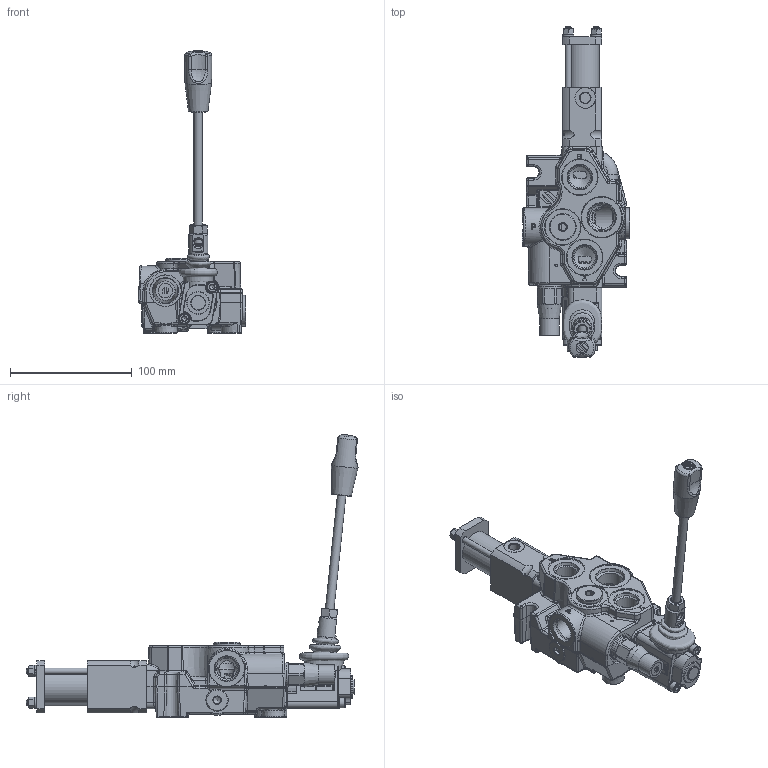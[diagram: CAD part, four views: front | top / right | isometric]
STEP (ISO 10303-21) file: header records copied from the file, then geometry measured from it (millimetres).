
FILE_DESCRIPTION(/* description */ ('Unknown'),/* implementation_level */ '2;1');
FILE_NAME(/* name */ 'OF.231.0117_00',/* time_stamp */ '2022-05-31T14:37:45+02:00',/* author */ ('Unknown'),/* organization */ ('Unknown'),/* preprocessor_version */ 'ST-DEVELOPER v18.102',/* originating_system */ 'Solid Edge',/* authorisation */ 'Unknown');
FILE_SCHEMA (('AUTOMOTIVE_DESIGN {1 0 10303 214 3 1 1}'));
Products named in the file (1): OF.231.0117_00
Bounding box: 88.66 x 273.19 x 232.43 mm (x, y, z)
Surface area: 90679.3 mm2 (no closed solid volume)
Topology: 0 solids, 36 shells, 1165 faces, 3308 edges, 2056 vertices
Faces by surface type: plane 409, cylinder 331, bspline 208, torus 80, cone 80, sphere 57
Full cylindrical faces by diameter (mm): 1.25 x2, 2 x2, 5 x4, 5.5 x4, 6 x2, 6.647 x4, 7 x1, 8 x1, 8.5 x2, 8.566 x2, 9 x3, 9.5 x2, 10 x1, 12 x3, 13 x1, 14.5 x1, 16 x2, 17 x2, 17.33 x6, 18 x1, 18.4 x2, 19.6 x1, 20 x2, 20.262 x1, 20.6 x1, 22 x2, 25.4 x1, 26 x1, 28 x1, 30 x3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
Entity records: 51076 total; most frequent: CARTESIAN_POINT 17604, DIRECTION 5585, ORIENTED_EDGE 5297, EDGE_CURVE 3062, AXIS2_PLACEMENT_3D 2139, VERTEX_POINT 2002, FACE_BOUND 1422, EDGE_LOOP 1415
